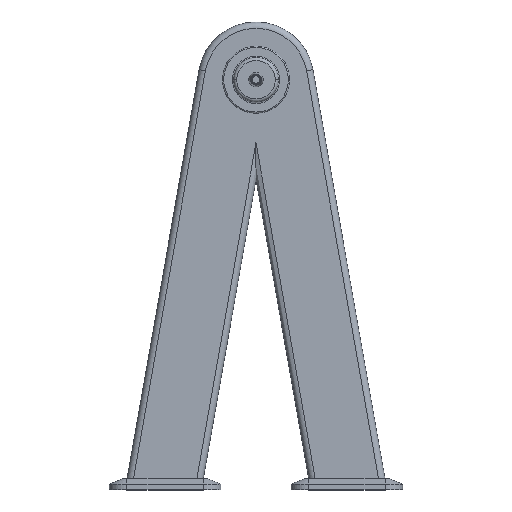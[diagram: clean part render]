
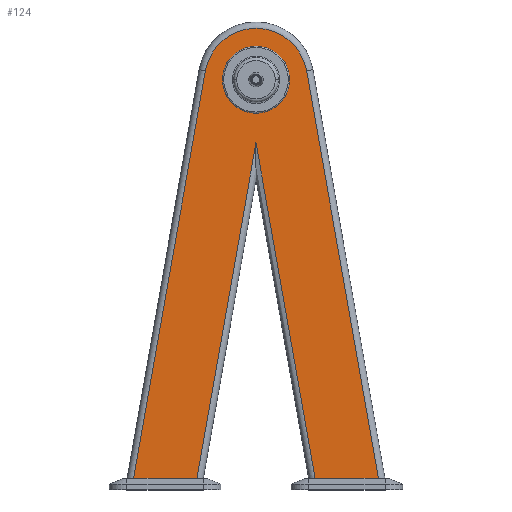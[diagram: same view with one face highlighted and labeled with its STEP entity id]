
A CAD part, top view. The second image highlights one B-rep face of the part: STEP entity #124.
In plain terms, the highlighted planar face has unit normal (0, 0, 1).
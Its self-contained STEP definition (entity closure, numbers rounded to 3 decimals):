
#11 = CARTESIAN_POINT ( 'NONE',  ( 108.485, -14.664, 63. ) ) ;
#61 = VECTOR ( 'NONE', #2145, 1000. ) ;
#124 = ADVANCED_FACE ( 'NONE', ( #782, #1475 ), #2363, .T. ) ;
#135 = DIRECTION ( 'NONE',  ( -0.174, 0.985, 0. ) ) ;
#149 = DIRECTION ( 'NONE',  ( -1., 0., 0. ) ) ;
#243 = EDGE_CURVE ( 'NONE', #1374, #1433, #2698, .T. ) ;
#282 = VERTEX_POINT ( 'NONE', #917 ) ;
#298 = EDGE_LOOP ( 'NONE', ( #1442, #909, #389, #2724, #300, #874, #352 ) ) ;
#300 = ORIENTED_EDGE ( 'NONE', *, *, #2667, .T. ) ;
#316 = CIRCLE ( 'NONE', #2057, 89. ) ;
#318 = AXIS2_PLACEMENT_3D ( 'NONE', #972, #572, #603 ) ;
#333 = EDGE_CURVE ( 'NONE', #343, #282, #368, .T. ) ;
#343 = VERTEX_POINT ( 'NONE', #668 ) ;
#352 = ORIENTED_EDGE ( 'NONE', *, *, #243, .T. ) ;
#363 = VERTEX_POINT ( 'NONE', #1202 ) ;
#368 = CIRCLE ( 'NONE', #1333, 58. ) ;
#389 = ORIENTED_EDGE ( 'NONE', *, *, #2379, .T. ) ;
#409 = DIRECTION ( 'NONE',  ( 0., 0., 1. ) ) ;
#459 = VERTEX_POINT ( 'NONE', #2608 ) ;
#572 = DIRECTION ( 'NONE',  ( 0., 0., 1. ) ) ;
#603 = DIRECTION ( 'NONE',  ( 1., 0., 0. ) ) ;
#627 = VERTEX_POINT ( 'NONE', #1054 ) ;
#635 = LINE ( 'NONE', #11, #2335 ) ;
#660 = CARTESIAN_POINT ( 'NONE',  ( 87.648, 725.455, 63. ) ) ;
#668 = CARTESIAN_POINT ( 'NONE',  ( -58., 710., 63. ) ) ;
#691 = ORIENTED_EDGE ( 'NONE', *, *, #2454, .F. ) ;
#773 = LINE ( 'NONE', #781, #61 ) ;
#781 = CARTESIAN_POINT ( 'NONE',  ( 0., 20., 63. ) ) ;
#782 = FACE_BOUND ( 'NONE', #1087, .T. ) ;
#794 = EDGE_CURVE ( 'NONE', #459, #1999, #2807, .T. ) ;
#800 = VERTEX_POINT ( 'NONE', #1407 ) ;
#874 = ORIENTED_EDGE ( 'NONE', *, *, #1698, .T. ) ;
#909 = ORIENTED_EDGE ( 'NONE', *, *, #794, .T. ) ;
#917 = CARTESIAN_POINT ( 'NONE',  ( 58., 710., 63. ) ) ;
#925 = CIRCLE ( 'NONE', #318, 58. ) ;
#962 = LINE ( 'NONE', #660, #2770 ) ;
#972 = CARTESIAN_POINT ( 'NONE',  ( 0., 710., 63. ) ) ;
#1054 = CARTESIAN_POINT ( 'NONE',  ( 102.373, 20., 63. ) ) ;
#1087 = EDGE_LOOP ( 'NONE', ( #1205, #691 ) ) ;
#1097 = CARTESIAN_POINT ( 'NONE',  ( -212.039, 20., 63. ) ) ;
#1202 = CARTESIAN_POINT ( 'NONE',  ( 87.648, 725.455, 63. ) ) ;
#1205 = ORIENTED_EDGE ( 'NONE', *, *, #333, .F. ) ;
#1225 = CARTESIAN_POINT ( 'NONE',  ( 0., 710., 63. ) ) ;
#1229 = VECTOR ( 'NONE', #1396, 1000. ) ;
#1256 = EDGE_CURVE ( 'NONE', #800, #627, #773, .T. ) ;
#1333 = AXIS2_PLACEMENT_3D ( 'NONE', #1907, #409, #2070 ) ;
#1374 = VERTEX_POINT ( 'NONE', #2337 ) ;
#1396 = DIRECTION ( 'NONE',  ( 0.174, 0.985, 0. ) ) ;
#1407 = CARTESIAN_POINT ( 'NONE',  ( 212.039, 20., 63. ) ) ;
#1433 = VERTEX_POINT ( 'NONE', #1097 ) ;
#1442 = ORIENTED_EDGE ( 'NONE', *, *, #2083, .F. ) ;
#1475 = FACE_OUTER_BOUND ( 'NONE', #298, .T. ) ;
#1484 = DIRECTION ( 'NONE',  ( 1., 0., 0. ) ) ;
#1617 = LINE ( 'NONE', #1709, #2121 ) ;
#1634 = CARTESIAN_POINT ( 'NONE',  ( -10.833, 539.147, 63. ) ) ;
#1637 = DIRECTION ( 'NONE',  ( 1., 0., 0. ) ) ;
#1698 = EDGE_CURVE ( 'NONE', #363, #1374, #316, .T. ) ;
#1709 = CARTESIAN_POINT ( 'NONE',  ( 0., 20., 63. ) ) ;
#1895 = DIRECTION ( 'NONE',  ( -0.174, -0.985, 0. ) ) ;
#1907 = CARTESIAN_POINT ( 'NONE',  ( 0., 710., 63. ) ) ;
#1999 = VERTEX_POINT ( 'NONE', #2515 ) ;
#2024 = CARTESIAN_POINT ( 'NONE',  ( 0., 710., 63. ) ) ;
#2057 = AXIS2_PLACEMENT_3D ( 'NONE', #1225, #2588, #1484 ) ;
#2070 = DIRECTION ( 'NONE',  ( 1., 0., 0. ) ) ;
#2083 = EDGE_CURVE ( 'NONE', #459, #1433, #1617, .T. ) ;
#2121 = VECTOR ( 'NONE', #149, 1000. ) ;
#2145 = DIRECTION ( 'NONE',  ( -1., 0., 0. ) ) ;
#2261 = VECTOR ( 'NONE', #1895, 1000. ) ;
#2316 = AXIS2_PLACEMENT_3D ( 'NONE', #2024, #2689, #1637 ) ;
#2335 = VECTOR ( 'NONE', #2502, 1000. ) ;
#2337 = CARTESIAN_POINT ( 'NONE',  ( -87.648, 725.455, 63. ) ) ;
#2363 = PLANE ( 'NONE',  #2316 ) ;
#2379 = EDGE_CURVE ( 'NONE', #1999, #627, #635, .T. ) ;
#2454 = EDGE_CURVE ( 'NONE', #282, #343, #925, .T. ) ;
#2502 = DIRECTION ( 'NONE',  ( 0.174, -0.985, 0. ) ) ;
#2515 = CARTESIAN_POINT ( 'NONE',  ( 0., 600.583, 63. ) ) ;
#2555 = CARTESIAN_POINT ( 'NONE',  ( -216.96, -7.91, 63. ) ) ;
#2588 = DIRECTION ( 'NONE',  ( 0., 0., 1. ) ) ;
#2608 = CARTESIAN_POINT ( 'NONE',  ( -102.373, 20., 63. ) ) ;
#2667 = EDGE_CURVE ( 'NONE', #800, #363, #962, .T. ) ;
#2689 = DIRECTION ( 'NONE',  ( 0., 0., 1. ) ) ;
#2698 = LINE ( 'NONE', #2555, #2261 ) ;
#2724 = ORIENTED_EDGE ( 'NONE', *, *, #1256, .F. ) ;
#2770 = VECTOR ( 'NONE', #135, 1000. ) ;
#2807 = LINE ( 'NONE', #1634, #1229 ) ;
